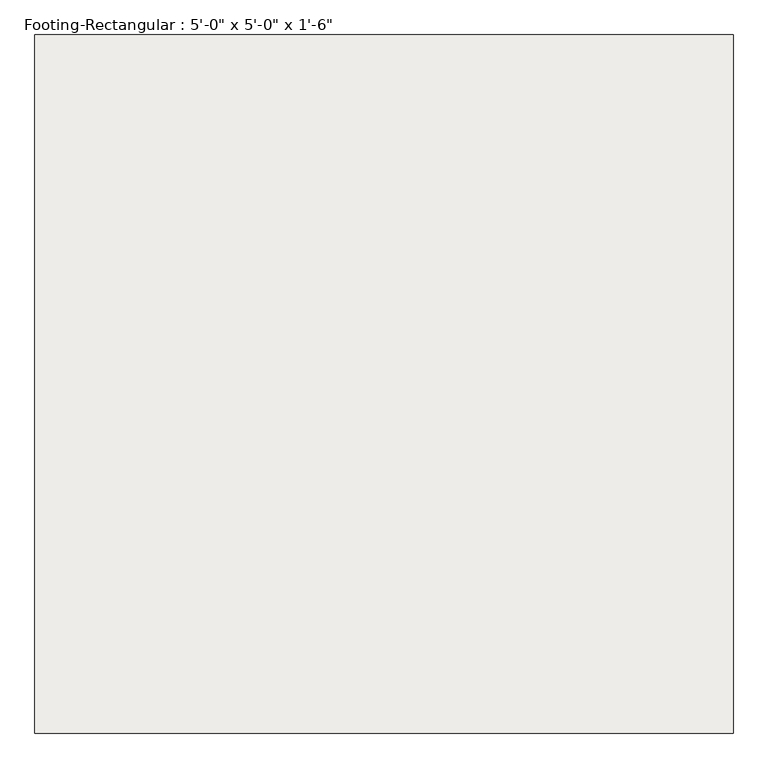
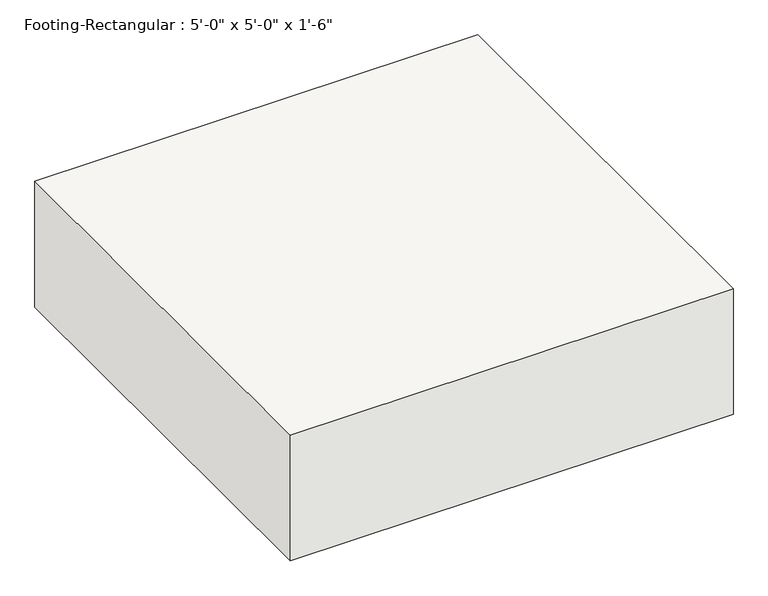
"""IFC4 building model written with IfcOpenShell, lengths in millimetres: slab geometry."""

from ifc_helpers import new_model, si_unit, frame, origin, place, context, project, spatial, polyline, outline, extrude, source, transform, mapped, element, save


def slab_df1ede25(model_context):
    return source(origin(), model_context, "Body", "SweptSolid", [
        extrude(outline(polyline([(762.0, 762.0), (762.0, -762.0), (-762.0, -762.0), (-762.0, 762.0), (762.0, 762.0)])), frame((0.0, 0.0, -457.2), z_axis=(0.0, 0.0, 1.0), x_axis=(1.0, 0.0, 0.0)), (0.0, 0.0, 1.0), 457.2),
    ])


if __name__ == "__main__":
    model = new_model("IFC4")
    model_context = context("Model", 3, world=origin())
    ifc_project = project(units=[si_unit("LENGTHUNIT", "METRE", prefix="MILLI")], contexts=[model_context])
    site = spatial("IfcSite", under=ifc_project)
    building = spatial("IfcBuilding", under=site)
    placement = place(None, origin())
    slab_shape = slab_df1ede25(model_context)
    element("IfcSlab", 1, ObjectType="Footing-Rectangular : 5'-0\" x 5'-0\" x 1'-6\"", at=placement, inside=building, context=model_context, shape_type="MappedRepresentation", body=[
        mapped(slab_shape, transform((0.0, 0.0, 0.0), x_axis=(1.0, 0.0, 0.0), y_axis=(0.0, 1.0, 0.0), z_axis=(0.0, 0.0, 1.0))),
    ])
    save(model, "model.ifc")
